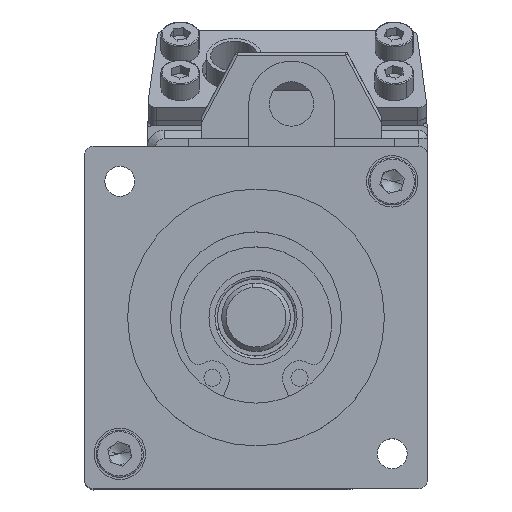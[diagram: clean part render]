
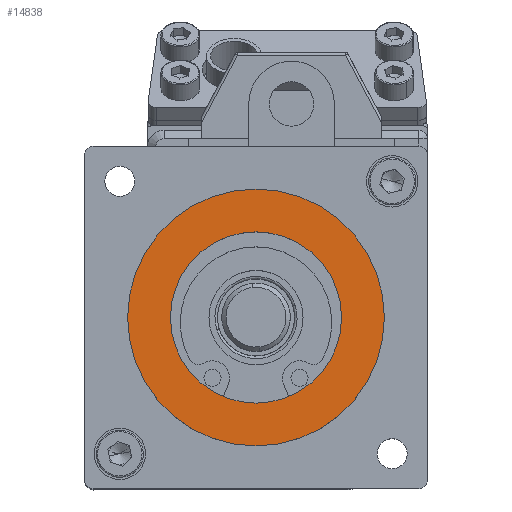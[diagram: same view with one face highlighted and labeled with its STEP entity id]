
A CAD part, top view. The second image highlights one B-rep face of the part: STEP entity #14838.
In plain terms, the highlighted planar face has unit normal (0, 0, 1).
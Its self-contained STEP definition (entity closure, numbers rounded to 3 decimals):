
#72 = PLANE ( 'NONE',  #888 ) ;
#416 = DIRECTION ( 'NONE',  ( 1., 0., 0. ) ) ;
#434 = VERTEX_POINT ( 'NONE', #27605 ) ;
#888 = AXIS2_PLACEMENT_3D ( 'NONE', #22472, #7592, #24968 ) ;
#1507 = VERTEX_POINT ( 'NONE', #13023 ) ;
#1813 = DIRECTION ( 'NONE',  ( 1., 0., 0. ) ) ;
#1817 = CARTESIAN_POINT ( 'NONE',  ( 68.478, 20., 115.595 ) ) ;
#1913 = ORIENTED_EDGE ( 'NONE', *, *, #2238, .T. ) ;
#2238 = EDGE_CURVE ( 'NONE', #434, #23953, #18387, .T. ) ;
#2509 = CIRCLE ( 'NONE', #21103, 15. ) ;
#3597 = CARTESIAN_POINT ( 'NONE',  ( 68.478, 20., 115.595 ) ) ;
#5921 = AXIS2_PLACEMENT_3D ( 'NONE', #28540, #13634, #31023 ) ;
#5968 = ORIENTED_EDGE ( 'NONE', *, *, #22199, .T. ) ;
#6144 = DIRECTION ( 'NONE',  ( 1., 0., 0. ) ) ;
#7592 = DIRECTION ( 'NONE',  ( 0., 0., 1. ) ) ;
#8066 = ORIENTED_EDGE ( 'NONE', *, *, #29073, .F. ) ;
#9384 = ORIENTED_EDGE ( 'NONE', *, *, #12698, .F. ) ;
#12698 = EDGE_CURVE ( 'NONE', #15782, #1507, #27191, .T. ) ;
#13023 = CARTESIAN_POINT ( 'NONE',  ( 58.478, 20., 115.595 ) ) ;
#13634 = DIRECTION ( 'NONE',  ( 0., 0., 1. ) ) ;
#14329 = DIRECTION ( 'NONE',  ( 0., 0., 1. ) ) ;
#14838 = ADVANCED_FACE ( 'NONE', ( #32153, #26318 ), #72, .T. ) ;
#15335 = DIRECTION ( 'NONE',  ( 0., 0., 1. ) ) ;
#15782 = VERTEX_POINT ( 'NONE', #16472 ) ;
#16015 = CARTESIAN_POINT ( 'NONE',  ( 83.478, 20., 115.595 ) ) ;
#16472 = CARTESIAN_POINT ( 'NONE',  ( 78.478, 20., 115.595 ) ) ;
#16682 = AXIS2_PLACEMENT_3D ( 'NONE', #1817, #14329, #1813 ) ;
#18387 = CIRCLE ( 'NONE', #16682, 15. ) ;
#20406 = EDGE_LOOP ( 'NONE', ( #1913, #5968 ) ) ;
#21019 = DIRECTION ( 'NONE',  ( 0., 0., 1. ) ) ;
#21103 = AXIS2_PLACEMENT_3D ( 'NONE', #30216, #15335, #416 ) ;
#22199 = EDGE_CURVE ( 'NONE', #23953, #434, #2509, .T. ) ;
#22472 = CARTESIAN_POINT ( 'NONE',  ( 68.478, 20., 115.595 ) ) ;
#22639 = CIRCLE ( 'NONE', #27083, 10. ) ;
#23953 = VERTEX_POINT ( 'NONE', #16015 ) ;
#24968 = DIRECTION ( 'NONE',  ( 1., 0., 0. ) ) ;
#26318 = FACE_OUTER_BOUND ( 'NONE', #20406, .T. ) ;
#27083 = AXIS2_PLACEMENT_3D ( 'NONE', #3597, #21019, #6144 ) ;
#27191 = CIRCLE ( 'NONE', #5921, 10. ) ;
#27605 = CARTESIAN_POINT ( 'NONE',  ( 53.478, 20., 115.595 ) ) ;
#28193 = EDGE_LOOP ( 'NONE', ( #8066, #9384 ) ) ;
#28540 = CARTESIAN_POINT ( 'NONE',  ( 68.478, 20., 115.595 ) ) ;
#29073 = EDGE_CURVE ( 'NONE', #1507, #15782, #22639, .T. ) ;
#30216 = CARTESIAN_POINT ( 'NONE',  ( 68.478, 20., 115.595 ) ) ;
#31023 = DIRECTION ( 'NONE',  ( 1., 0., 0. ) ) ;
#32153 = FACE_BOUND ( 'NONE', #28193, .T. ) ;
